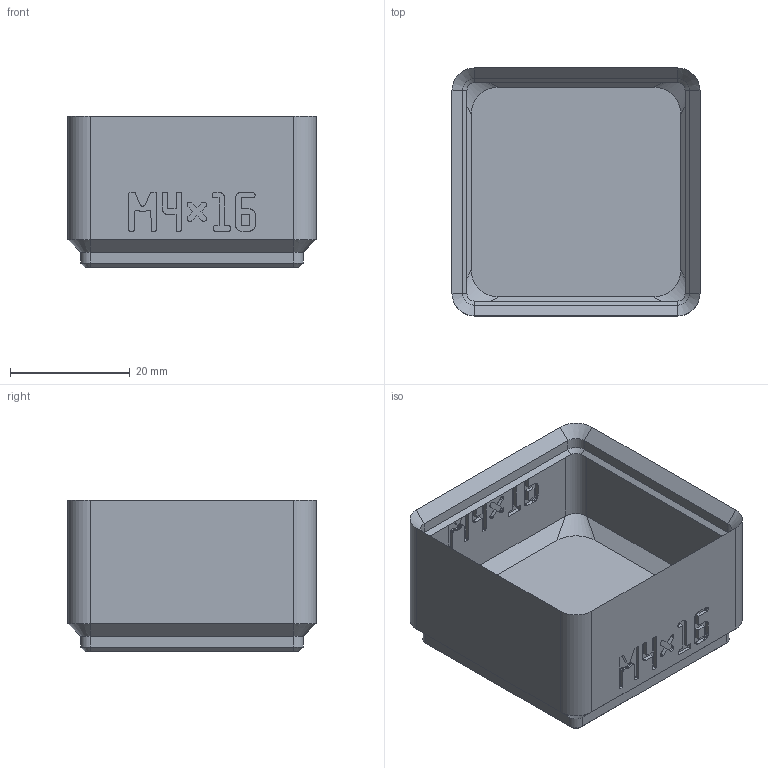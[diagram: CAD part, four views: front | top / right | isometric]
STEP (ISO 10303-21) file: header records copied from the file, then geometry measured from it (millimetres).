
FILE_DESCRIPTION(('Open CASCADE Model'),'2;1');
FILE_NAME('bin_m4x16','2026-11-16T17:22:12',('Author'),('Open CASCADE'), 'Open CASCADE STEP processor 8.0','build123d','Unknown');
FILE_SCHEMA(('AUTOMOTIVE_DESIGN { 1 0 10303 214 1 1 1 1 }'));
Products named in the file (1): bin_m4x16
Bounding box: 41.5 x 41.5 x 25.4 mm (x, y, z)
Volume: 12272.5 mm3; surface area: 10541.9 mm2
Topology: 1 solids, 1 shells, 1061 faces, 3058 edges, 2020 vertices
Faces by surface type: plane 1013, cylinder 24, cone 16, bspline 8
Full cylindrical faces by diameter (mm): 3.2 x4, 6.5 x4
Entity records: 71796 total; most frequent: CARTESIAN_POINT 14440, DIRECTION 9258, LINE 7002, VECTOR 7002, ORIENTED_EDGE 6116, PCURVE 6116, DEFINITIONAL_REPRESENTATION 6116, EDGE_CURVE 3058
